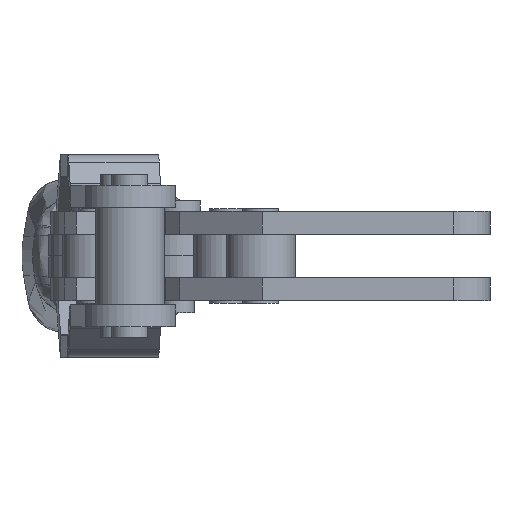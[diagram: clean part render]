
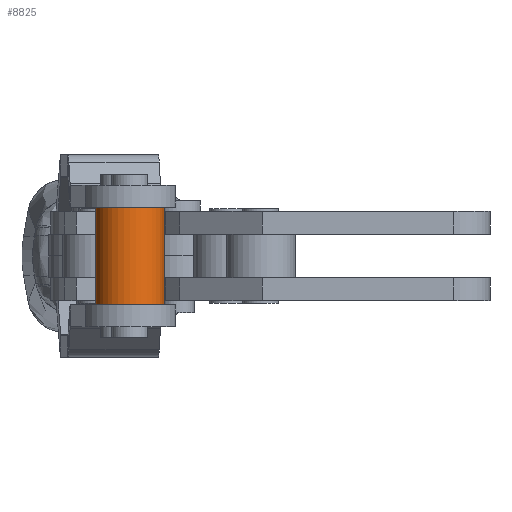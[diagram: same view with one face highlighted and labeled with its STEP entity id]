
A CAD part, left-side view. The second image highlights one B-rep face of the part: STEP entity #8825.
In plain terms, the highlighted cylindrical face has radius 4.763 mm (diameter 9.525 mm), a partial arc.
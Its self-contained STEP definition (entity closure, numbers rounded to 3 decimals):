
#156 = AXIS2_PLACEMENT_3D ( 'NONE', #12005, #28809, #14436 ) ;
#907 = VERTEX_POINT ( 'NONE', #28896 ) ;
#1405 = EDGE_CURVE ( 'NONE', #31124, #907, #24781, .T. ) ;
#4398 = AXIS2_PLACEMENT_3D ( 'NONE', #23064, #30427, #13611 ) ;
#4827 = DIRECTION ( 'NONE',  ( 0., -1., 0. ) ) ;
#4829 = ORIENTED_EDGE ( 'NONE', *, *, #1405, .T. ) ;
#5956 = DIRECTION ( 'NONE',  ( 0., -1., 0. ) ) ;
#6707 = CARTESIAN_POINT ( 'NONE',  ( 0., 6.75, 4.762 ) ) ;
#6722 = CARTESIAN_POINT ( 'NONE',  ( 0., 0., 4.762 ) ) ;
#8345 = EDGE_CURVE ( 'NONE', #11045, #907, #15399, .T. ) ;
#8551 = FACE_OUTER_BOUND ( 'NONE', #17630, .T. ) ;
#8578 = EDGE_CURVE ( 'NONE', #29939, #31124, #11574, .T. ) ;
#8825 = ADVANCED_FACE ( 'NONE', ( #8551 ), #14229, .T. ) ;
#9119 = DIRECTION ( 'NONE',  ( 0., -1., 0. ) ) ;
#10530 = CARTESIAN_POINT ( 'NONE',  ( 0., 6.75, -4.762 ) ) ;
#11045 = VERTEX_POINT ( 'NONE', #20046 ) ;
#11445 = VECTOR ( 'NONE', #9119, 1000. ) ;
#11574 = CIRCLE ( 'NONE', #156, 4.762 ) ;
#11670 = ORIENTED_EDGE ( 'NONE', *, *, #25660, .F. ) ;
#11946 = CARTESIAN_POINT ( 'NONE',  ( 0., 0., -4.762 ) ) ;
#12005 = CARTESIAN_POINT ( 'NONE',  ( 0., 6.75, 0. ) ) ;
#13611 = DIRECTION ( 'NONE',  ( 0., 0., -1. ) ) ;
#14229 = CYLINDRICAL_SURFACE ( 'NONE', #4398, 4.762 ) ;
#14436 = DIRECTION ( 'NONE',  ( 0., 0., -1. ) ) ;
#15399 = CIRCLE ( 'NONE', #27966, 4.762 ) ;
#17630 = EDGE_LOOP ( 'NONE', ( #11670, #19627, #4829, #23070 ) ) ;
#17879 = LINE ( 'NONE', #6722, #11445 ) ;
#18378 = VECTOR ( 'NONE', #4827, 1000. ) ;
#19627 = ORIENTED_EDGE ( 'NONE', *, *, #8578, .T. ) ;
#20046 = CARTESIAN_POINT ( 'NONE',  ( 0., -6.75, 4.762 ) ) ;
#20350 = CARTESIAN_POINT ( 'NONE',  ( 0., -6.75, 0. ) ) ;
#22750 = DIRECTION ( 'NONE',  ( 0., 0., -1. ) ) ;
#23064 = CARTESIAN_POINT ( 'NONE',  ( 0., 0., 0. ) ) ;
#23070 = ORIENTED_EDGE ( 'NONE', *, *, #8345, .F. ) ;
#24781 = LINE ( 'NONE', #11946, #18378 ) ;
#25660 = EDGE_CURVE ( 'NONE', #29939, #11045, #17879, .T. ) ;
#27966 = AXIS2_PLACEMENT_3D ( 'NONE', #20350, #5956, #22750 ) ;
#28809 = DIRECTION ( 'NONE',  ( 0., -1., 0. ) ) ;
#28896 = CARTESIAN_POINT ( 'NONE',  ( 0., -6.75, -4.762 ) ) ;
#29939 = VERTEX_POINT ( 'NONE', #6707 ) ;
#30427 = DIRECTION ( 'NONE',  ( 0., -1., 0. ) ) ;
#31124 = VERTEX_POINT ( 'NONE', #10530 ) ;
